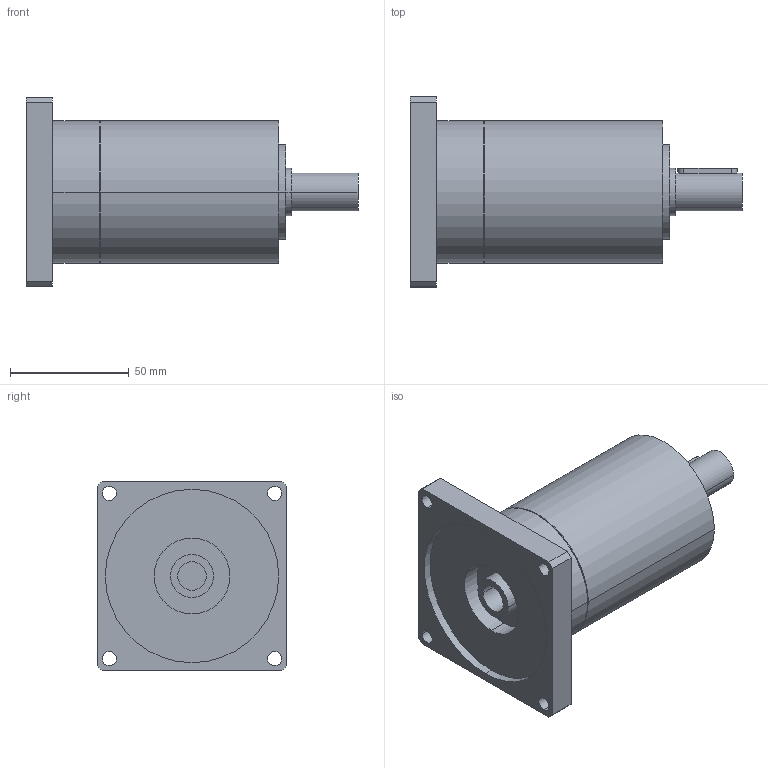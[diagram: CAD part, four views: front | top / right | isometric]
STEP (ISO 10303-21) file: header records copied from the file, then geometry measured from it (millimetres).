
FILE_DESCRIPTION(('CoCreate Modeling STEP Export'),'2;1');
FILE_NAME('GPR75_ig-9-12-16-20-24-30-36_16_B14_12_P06.stp','2014-08-25T16:02:34',(''),(''),'CoCreate Modeling STEP processor for AP214 (Solid Model)','CoCreate Modeling 16.00C 25-Feb-2009 (C) Parametric Technology GmbH','');
FILE_SCHEMA(('AUTOMOTIVE_DESIGN { 1 0 10303 214 1 1 1 1 }'));
Length unit declared in the file: millimetre
Products named in the file (2): GPR75_ig-9-12-16-20-24-30-36_16_B14_12_P06
Assembly tree (1 placements, depth 2):
  GPR75_ig-9-12-16-20-24-30-36_16_B14_12_P06
    GPR75_ig-9-12-16-20-24-30-36_16_B14_12_P06
Bounding box: 139.9 x 80 x 80 mm (x, y, z)
Volume: 325977.1 mm3; surface area: 40857.2 mm2
Topology: 1 solids, 1 shells, 70 faces, 188 edges, 132 vertices
Faces by surface type: cylinder 42, plane 22, cone 6
Entity records: 1939 total; most frequent: ORIENTED_EDGE 372, CARTESIAN_POINT 360, DIRECTION 262, EDGE_CURVE 186, VERTEX_POINT 132, AXIS2_PLACEMENT_3D 98, EDGE_LOOP 92, FACE_OUTER_BOUND 70
